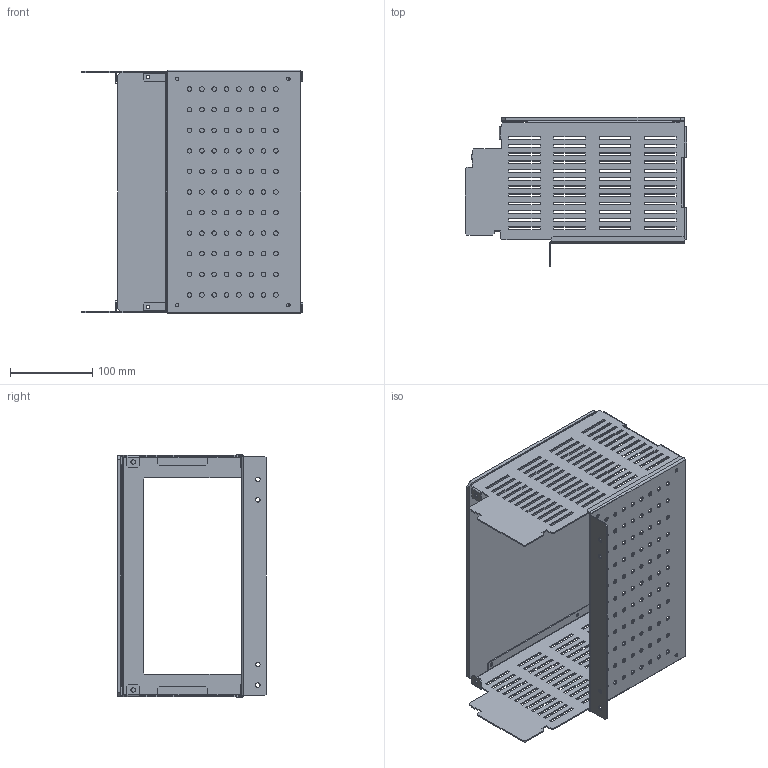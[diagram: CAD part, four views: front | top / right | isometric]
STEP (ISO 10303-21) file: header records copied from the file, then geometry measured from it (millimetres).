
FILE_DESCRIPTION(('CAx-IF Rec.Pracs.---Model Styling and Organization---1.2---2011-12-15','CAx-IF Rec.Pracs.---Geometric and Assembly Validation Properties---4.1---2014-06-16','CAx-IF Rec.Pracs.---PMI Polyline Presentation---2.0---2013-05-24'),'2;1');
FILE_NAME('R5M2W6MSB4.stp','2021-05-05T13:09:36+03:00',(''),(''),'STEP Interface 4.4 by CT CoreTechnologie','3D_Evolution4.4 by CT CoreTechnologie','');
FILE_SCHEMA(('AUTOMOTIVE_DESIGN { 1 0 10303 214 1 1 1 1 }'));
Length unit declared in the file: millimetre
Products named in the file (6): R5M2W6MSB4; RB.1461.00.00.0_-04; RB.1460.00.00.0_-04; RB.1462.00.00.0_-04; RB.1409.00.00.0_-01; RB.1409.00.00.0_-00
Assembly tree (5 placements, depth 2):
  R5M2W6MSB4
    RB.1461.00.00.0_-04
    RB.1460.00.00.0_-04
    RB.1462.00.00.0_-04
    RB.1409.00.00.0_-01
    RB.1409.00.00.0_-00
Bounding box: 269 x 181 x 296 mm (x, y, z)
Surface area: 437558.1 mm2 (no closed solid volume)
Topology: 0 solids, 5 shells, 874 faces, 2556 edges, 1692 vertices
Faces by surface type: plane 618, cylinder 256
Entity records: 29881 total; most frequent: CARTESIAN_POINT 5128, ORIENTED_EDGE 5112, DIRECTION 4828, EDGE_CURVE 2556, VECTOR 2044, LINE 2044, VERTEX_POINT 1692, AXIS2_PLACEMENT_3D 1392
